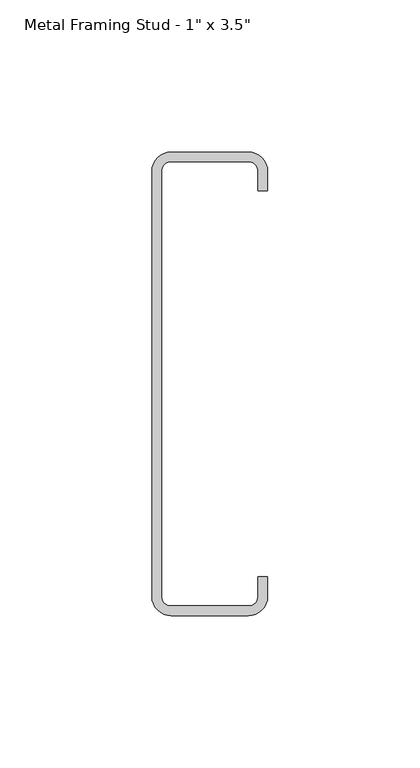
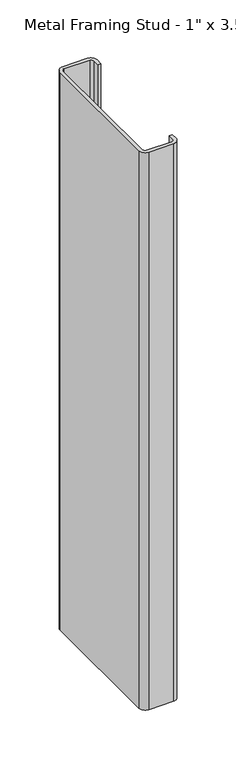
"""IFC4 building model written with IfcOpenShell, lengths in millimetres: proxy geometry."""

from ifc_helpers import new_model, si_unit, point, frame, frame_2d, origin, place, context, project, spatial, polyline, circle_curve, trimmed, segment, composite_curve, outline, extrude, source, transform, mapped, element, save


def proxy_8f7a9f0e(model_context):
    return source(origin(), model_context, "Body", "SweptSolid", [
        extrude(outline(composite_curve([segment(polyline([(19.05, 63.5), (15.875, 63.5), (15.875, 70.2679713)]), True, "CONTINUOUS"), segment(trimmed(circle_curve(frame_2d((12.7, 69.85)), 3.2023936), [point((15.875, 70.2679713))], [point((13.1179713, 73.025))], True, "CARTESIAN"), True, "CONTINUOUS"), segment(polyline([(13.1179713, 73.025), (-13.1179713, 73.025)]), True, "CONTINUOUS"), segment(trimmed(circle_curve(frame_2d((-12.7, 69.85)), 3.2023936), [point((-13.1179713, 73.025))], [point((-15.875, 70.2679713))], True, "CARTESIAN"), True, "CONTINUOUS"), segment(polyline([(-15.875, 70.2679713), (-15.875, -70.2679713)]), True, "CONTINUOUS"), segment(trimmed(circle_curve(frame_2d((-12.7, -69.85)), 3.2023936), [point((-15.875, -70.2679713))], [point((-13.1179713, -73.025))], True, "CARTESIAN"), True, "CONTINUOUS"), segment(polyline([(-13.1179713, -73.025), (13.1179713, -73.025)]), True, "CONTINUOUS"), segment(trimmed(circle_curve(frame_2d((12.7, -69.85)), 3.2023936), [point((13.1179713, -73.025))], [point((15.875, -70.2679713))], True, "CARTESIAN"), True, "CONTINUOUS"), segment(polyline([(15.875, -70.2679713), (15.875, -63.5), (19.05, -63.5), (19.05, -69.85)]), True, "CONTINUOUS"), segment(trimmed(circle_curve(frame_2d((12.7, -69.85)), 6.35), [point((19.05, -69.85))], [point((12.7, -76.2))], False, "CARTESIAN"), True, "CONTINUOUS"), segment(polyline([(12.7, -76.2), (-12.7, -76.2)]), True, "CONTINUOUS"), segment(trimmed(circle_curve(frame_2d((-12.7, -69.85)), 6.35), [point((-12.7, -76.2))], [point((-19.05, -69.85))], False, "CARTESIAN"), True, "CONTINUOUS"), segment(polyline([(-19.05, -69.85), (-19.05, 69.85)]), True, "CONTINUOUS"), segment(trimmed(circle_curve(frame_2d((-12.7, 69.85)), 6.35), [point((-19.05, 69.85))], [point((-12.7, 76.2))], False, "CARTESIAN"), True, "CONTINUOUS"), segment(polyline([(-12.7, 76.2), (12.7, 76.2)]), True, "CONTINUOUS"), segment(trimmed(circle_curve(frame_2d((12.7, 69.85)), 6.35), [point((12.7, 76.2))], [point((19.05, 69.85))], False, "CARTESIAN"), True, "CONTINUOUS"), segment(polyline([(19.05, 69.85), (19.05, 63.5)]), True, "CONTINUOUS")], self_intersect=False)), frame((0.0, 0.0, 6.35), z_axis=(0.0, 0.0, 1.0), x_axis=(1.0, 0.0, 0.0)), (0.0, 0.0, 1.0), 603.25),
    ])


if __name__ == "__main__":
    model = new_model("IFC4")
    model_context = context("Model", 3, world=origin())
    ifc_project = project(units=[si_unit("LENGTHUNIT", "METRE", prefix="MILLI")], contexts=[model_context])
    site = spatial("IfcSite", under=ifc_project)
    building = spatial("IfcBuilding", under=site)
    placement = place(None, origin())
    proxy_shape = proxy_8f7a9f0e(model_context)
    element("IfcBuildingElementProxy", 1, Name="CRAi Generic Model Metal Stud : Metal Framing Stud - 1\" x 3.5\"", ObjectType="CRAi Generic Model Metal Stud : Metal Framing Stud - 1\" x 3.5\"", at=placement, inside=building, context=model_context, shape_type="MappedRepresentation", body=[
        mapped(proxy_shape, transform((0.0, 0.0, 0.0), x_axis=(1.0, 0.0, 0.0), y_axis=(0.0, 1.0, 0.0), z_axis=(0.0, 0.0, 1.0))),
    ])
    save(model, "model.ifc")
